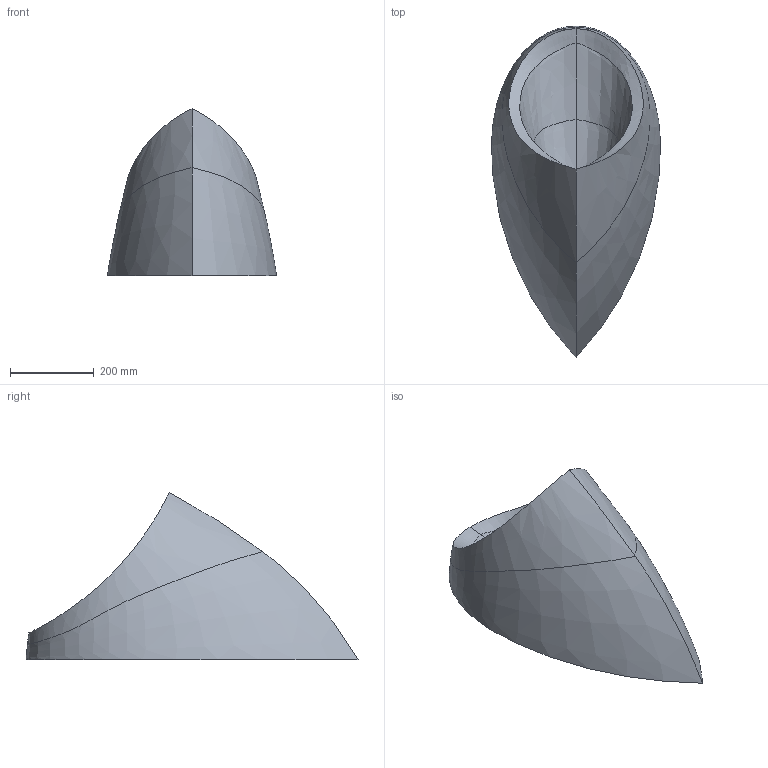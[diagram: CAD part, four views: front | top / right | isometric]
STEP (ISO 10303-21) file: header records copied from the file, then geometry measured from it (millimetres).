
FILE_DESCRIPTION((''),'2;1');
FILE_NAME('D:\ConTechCAD\Kunder\Uridan\Kummer\GH-6\3D eksport\GH-6_3D.stp','2010-02-03T20:53:30',('Finn Lundsgaard'),(''),'Autodesk Inventor 2009','Autodesk Inventor 2009','');
FILE_SCHEMA(('AUTOMOTIVE_DESIGN { 1 0 10303 214 1 1 1 1 }'));
Length unit declared in the file: millimetre
Products named in the file (5): GH-6_samlet_3D_Eksport; Kumme_GH-6; dæksel_samlet_KH-5_KHC-5; Dæksel_KH-5; Rør_Dæksel_KH-5_KHC-5
Assembly tree (4 placements, depth 3):
  GH-6_samlet_3D_Eksport
    Kumme_GH-6
    dæksel_samlet_KH-5_KHC-5
      Dæksel_KH-5
      Rør_Dæksel_KH-5_KHC-5
Bounding box: 404.87 x 795 x 400 mm (x, y, z)
Volume: 2224784.9 mm3; surface area: 1411768 mm2
Topology: 3 solids, 3 shells, 135 faces, 335 edges, 210 vertices
Faces by surface type: bspline 62, plane 24, cone 22, torus 15, cylinder 12
Full cylindrical faces by diameter (mm): 45 x1, 50 x1, 50.15 x1, 60 x1, 65 x1, 130 x1
Entity records: 19536 total; most frequent: CARTESIAN_POINT 16886, ORIENTED_EDGE 632, EDGE_CURVE 316, DIRECTION 304, VERTEX_POINT 208, B_SPLINE_CURVE_WITH_KNOTS 200, EDGE_LOOP 160, AXIS2_PLACEMENT_3D 141
